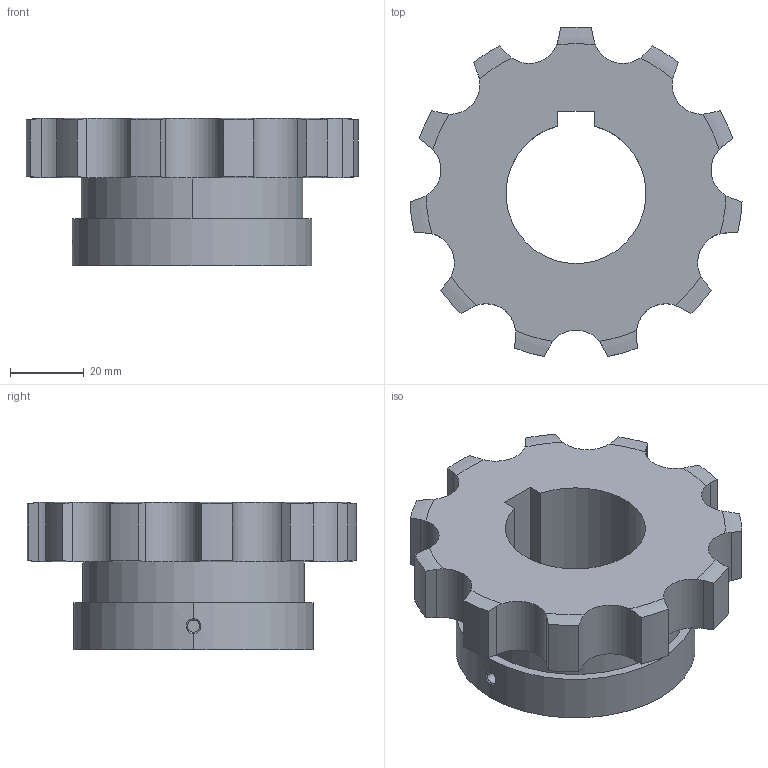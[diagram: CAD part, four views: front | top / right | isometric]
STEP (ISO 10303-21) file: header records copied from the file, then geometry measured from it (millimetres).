
FILE_DESCRIPTION((''),'2;1');
FILE_NAME('510-501-3811_PRT','2021-02-13T',('Brieden'),('Brieden'),'PRO/ENGINEER BY PARAMETRIC TECHNOLOGY CORPORATION, 2010160','PRO/ENGINEER BY PARAMETRIC TECHNOLOGY CORPORATION, 2010160','');
FILE_SCHEMA(('AUTOMOTIVE_DESIGN { 1 0 10303 214 1 1 1 1 }'));
Length unit declared in the file: millimetre
Products named in the file (1): 510-501-3811_PRT
Bounding box: 90.03 x 89.28 x 40 mm (x, y, z)
Volume: 112510.8 mm3; surface area: 24869.3 mm2
Topology: 1 solids, 1 shells, 88 faces, 249 edges, 164 vertices
Faces by surface type: cylinder 53, torus 22, plane 7, bspline 6
Entity records: 4398 total; most frequent: CARTESIAN_POINT 1432, ORIENTED_EDGE 498, DIRECTION 389, PRESENTATION_STYLE_ASSIGNMENT 250, STYLED_ITEM 250, CURVE_STYLE 249, EDGE_CURVE 249, VERTEX_POINT 164
